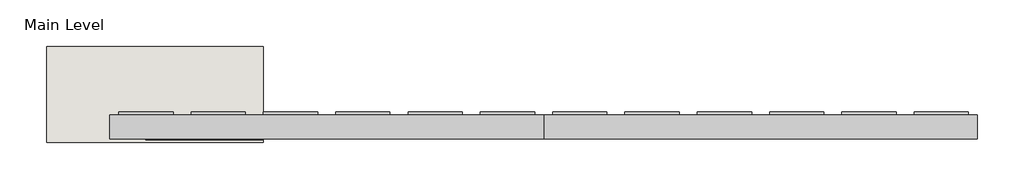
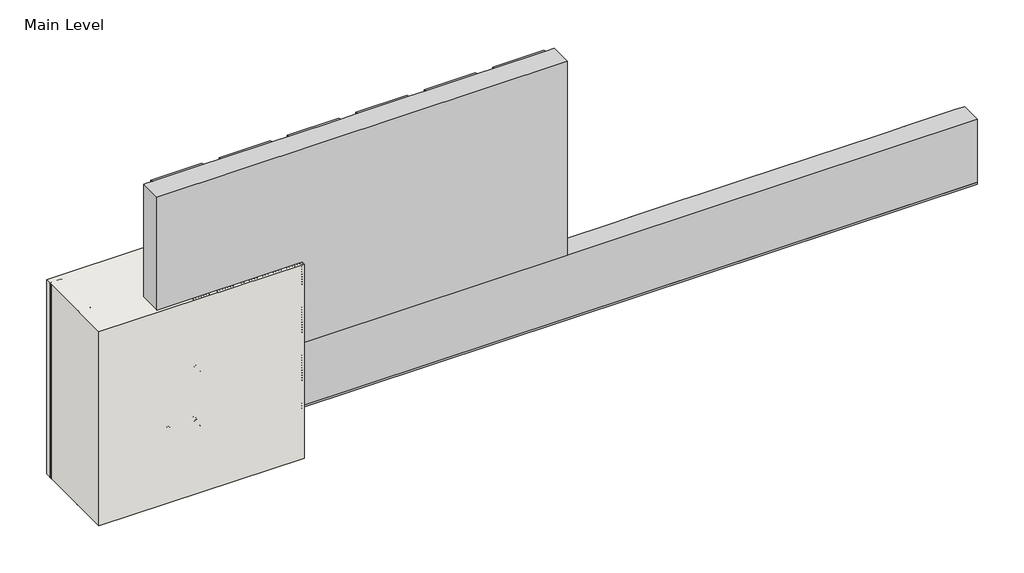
# One storey, incomplete: 9 proxies, 1 wall.
"""IFC4 building model written with IfcOpenShell, lengths in millimetres."""

from ifc_helpers import new_model, si_unit, origin, origin_with_axes, place, context, project, spatial, polyline, outline, extrude, transform, mapped, element, save
from components import generic_models_31547c53, generic_models_4ceaeb6f, generic_models_7232ab98, generic_models_d0d128fb, generic_models_d678dd29, generic_models_6ac29540, generic_models_8c792c9c, proxy_215900e5, proxy_691c8b69

model = new_model("IFC4")

# Units and contexts
model_context = context("Model", 3, world=origin())
ifc_project = project(units=[si_unit("LENGTHUNIT", "METRE", prefix="MILLI")], contexts=[model_context])

# Site, building, storey
site = spatial("IfcSite", under=ifc_project)
building = spatial("IfcBuilding", under=site)
storey = spatial("IfcBuildingStorey", under=building, Name="Main Level", Elevation=0.0)

# Proxies
placement = place(None, origin())
generic_models_shape = generic_models_31547c53(model_context)
element("IfcBuildingElementProxy", 1, Name="Durabond Generic Model Sealant Vent : Durabond Generic Model Sealant Vent", ObjectType="Durabond Generic Model Sealant Vent : Durabond Generic Model Sealant Vent", at=placement, inside=storey, context=model_context, shape_type="MappedRepresentation", body=[
    mapped(generic_models_shape, transform((26878.1101773, 564.1316297, 146.84375), x_axis=(1.0, 0.0, 0.0), y_axis=(0.0, 0.0, 1.0), z_axis=(0.0, -1.0, 0.0))),
])
generic_models_2_shape = generic_models_4ceaeb6f(model_context)
element("IfcBuildingElementProxy", 2, Name="CRAi Generic Model Metal Stud Array : CRAi Generic Model Metal Stud Array", ObjectType="CRAi Generic Model Metal Stud Array : CRAi Generic Model Metal Stud Array", at=placement, inside=storey, context=model_context, shape_type="MappedRepresentation", body=[
    mapped(generic_models_2_shape, transform((26692.3726773, 719.7066297, 0.0), x_axis=(-1.0, 0.0, 0.0), y_axis=(0.0, -1.0, 0.0), z_axis=(0.0, 0.0, 1.0))),
])
generic_models_3_shape = generic_models_7232ab98(model_context)
generic_models_4_shape = generic_models_d0d128fb(model_context)
generic_models_5_shape = generic_models_d678dd29(model_context)
generic_models_6_shape = generic_models_6ac29540(model_context)
element("IfcBuildingElementProxy", 3, Name="CRAi Generic Model Mesh Piece Face Based : CRAi Generic Model Mesh Piece Face Based", ObjectType="CRAi Generic Model Mesh Piece Face Based : CRAi Generic Model Mesh Piece Face Based", at=placement, inside=storey, context=model_context, shape_type="MappedRepresentation", body=[
    mapped(generic_models_3_shape, transform((26933.6726773, 541.9066297, 381.0), x_axis=(-1.0, 0.0, 0.0), y_axis=(0.0, 0.0, -1.0), z_axis=(0.0, -1.0, 0.0))),
    mapped(generic_models_4_shape, transform((26933.6726773, 541.9066297, 381.0), x_axis=(-1.0, 0.0, 0.0), y_axis=(0.0, 0.0, -1.0), z_axis=(0.0, -1.0, 0.0))),
    mapped(generic_models_5_shape, transform((26933.6726773, 541.9066297, 381.0), x_axis=(-1.0, 0.0, 0.0), y_axis=(0.0, 0.0, -1.0), z_axis=(0.0, -1.0, 0.0))),
    mapped(generic_models_6_shape, transform((26933.6726773, 541.9066297, 381.0), x_axis=(-1.0, 0.0, 0.0), y_axis=(0.0, 0.0, -1.0), z_axis=(0.0, -1.0, 0.0))),
])
generic_models_7_shape = generic_models_8c792c9c(model_context)
element("IfcBuildingElementProxy", 4, Name="Durabond Generic Model Screw w Standard Wall Plate : Durabond Generic Model Screw w Standard Wall Plate", ObjectType="Durabond Generic Model Screw w Standard Wall Plate : Durabond Generic Model Screw w Standard Wall Plate", at=placement, inside=storey, context=model_context, shape_type="MappedRepresentation", body=[
    mapped(generic_models_7_shape, transform((26782.8601773, 544.2878797, 222.25), x_axis=(1.0, 0.0, 0.0), y_axis=(0.0, 0.0, 1.0), z_axis=(0.0, -1.0, 0.0))),
])
element("IfcBuildingElementProxy", 5, Name="Durabond Generic Model Screw w Standard Wall Plate : Durabond Generic Model Screw w Standard Wall Plate", ObjectType="Durabond Generic Model Screw w Standard Wall Plate : Durabond Generic Model Screw w Standard Wall Plate", at=placement, inside=storey, context=model_context, shape_type="MappedRepresentation", body=[
    mapped(generic_models_7_shape, transform((26782.8601773, 544.2878797, 393.7), x_axis=(1.0, 0.0, 0.0), y_axis=(0.0, 0.0, 1.0), z_axis=(0.0, -1.0, 0.0))),
])
element("IfcBuildingElementProxy", 6, Name="Durabond Generic Model Screw w Standard Wall Plate : Durabond Generic Model Screw w Standard Wall Plate", ObjectType="Durabond Generic Model Screw w Standard Wall Plate : Durabond Generic Model Screw w Standard Wall Plate", at=placement, inside=storey, context=model_context, shape_type="MappedRepresentation", body=[
    mapped(generic_models_7_shape, transform((26705.0726773, 547.4628797, 222.25), x_axis=(1.0, 0.0, 0.0), y_axis=(0.0, 0.0, 1.0), z_axis=(0.0, -1.0, 0.0))),
])
element("IfcBuildingElementProxy", 7, Name="Durabond Generic Model Screw w Standard Wall Plate : Durabond Generic Model Screw w Standard Wall Plate", ObjectType="Durabond Generic Model Screw w Standard Wall Plate : Durabond Generic Model Screw w Standard Wall Plate", at=placement, inside=storey, context=model_context, shape_type="MappedRepresentation", body=[
    mapped(generic_models_7_shape, transform((26717.7726773, 548.2566297, 393.7), x_axis=(1.0, 0.0, 0.0), y_axis=(0.0, 0.0, 1.0), z_axis=(0.0, -1.0, 0.0))),
])
proxy_shape = proxy_215900e5(model_context)
element("IfcBuildingElementProxy", 8, Name="Durabond Generic Model Insulite Select Extruded Insulation Board : 3\"", ObjectType="Durabond Generic Model Insulite Select Extruded Insulation Board : 3\"", at=placement, inside=storey, context=model_context, shape_type="MappedRepresentation", body=[
    mapped(proxy_shape, transform((27276.5726773, 624.4566297, 660.4), x_axis=(1.0, 0.0, 0.0), y_axis=(0.0, 0.0, 1.0), z_axis=(0.0, -1.0, 0.0))),
])
proxy_2_shape = proxy_691c8b69(model_context)
element("IfcBuildingElementProxy", 9, Name="Durabond Generic Model Insulite Select Extruded Vent Board : 3\"", ObjectType="Durabond Generic Model Insulite Select Extruded Vent Board : 3\"", at=placement, inside=storey, context=model_context, shape_type="MappedRepresentation", body=[
    mapped(proxy_2_shape, transform((27886.1726773, 624.4566297, 254.0), x_axis=(1.0, 0.0, 0.0), y_axis=(0.0, 0.0, 1.0), z_axis=(0.0, -1.0, 0.0))),
])

# Wall
element("IfcWall", 10, ObjectType="189mm (7.5”) EIFS Field Applied on Mtl. Stud Layer - 50mm Grooved Insulation Board Metal Stud Wall(AirStop) 2", at=placement, inside=storey, context=model_context, shape_type="SweptSolid", body=[
    extrude(outline(polyline([(27098.7726773, 538.7316297), (26489.1726773, 538.7316297), (26489.1726773, 808.6066297), (27098.7726773, 808.6066297), (27098.7726773, 538.7316297)])), origin_with_axes(), (0.0, 0.0, 1.0), 609.6),
])

save(model, "model.ifc")
